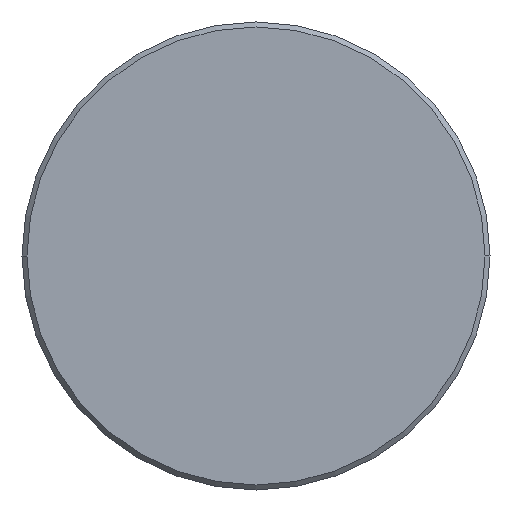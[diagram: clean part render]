
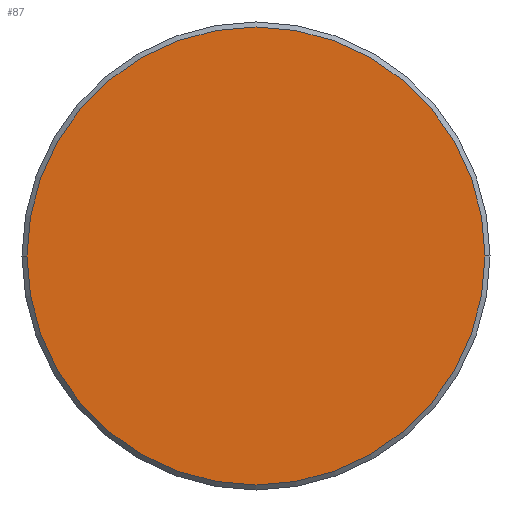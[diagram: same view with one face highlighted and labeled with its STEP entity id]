
A CAD part, left-side view. The second image highlights one B-rep face of the part: STEP entity #87.
In plain terms, the highlighted planar face has unit normal (-1, 0, 0).
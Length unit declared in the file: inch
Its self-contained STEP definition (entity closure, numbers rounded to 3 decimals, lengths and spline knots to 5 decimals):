
#2 = VERTEX_POINT ( 'NONE', #188 ) ;
#8 = DIRECTION ( 'NONE',  ( -1., 0., 0. ) ) ;
#17 = VERTEX_POINT ( 'NONE', #132 ) ;
#63 = CARTESIAN_POINT ( 'NONE',  ( 0., 0., 0. ) ) ;
#84 = DIRECTION ( 'NONE',  ( -1., 0., 0. ) ) ;
#87 = ADVANCED_FACE ( 'NONE', ( #263 ), #139, .T. ) ;
#109 = CARTESIAN_POINT ( 'NONE',  ( 0., 0., 0. ) ) ;
#132 = CARTESIAN_POINT ( 'NONE',  ( 0., -0.1835, 0. ) ) ;
#139 = PLANE ( 'NONE',  #381 ) ;
#151 = EDGE_CURVE ( 'NONE', #17, #2, #375, .T. ) ;
#169 = CIRCLE ( 'NONE', #257, 0.1835 ) ;
#180 = ORIENTED_EDGE ( 'NONE', *, *, #151, .T. ) ;
#188 = CARTESIAN_POINT ( 'NONE',  ( 0., 0.1835, 0. ) ) ;
#224 = CARTESIAN_POINT ( 'NONE',  ( 0., 0., 0. ) ) ;
#229 = DIRECTION ( 'NONE',  ( -1., 0., 0. ) ) ;
#234 = DIRECTION ( 'NONE',  ( 0., -1., 0. ) ) ;
#255 = DIRECTION ( 'NONE',  ( 0., -1., 0. ) ) ;
#257 = AXIS2_PLACEMENT_3D ( 'NONE', #63, #8, #234 ) ;
#260 = ORIENTED_EDGE ( 'NONE', *, *, #277, .T. ) ;
#263 = FACE_OUTER_BOUND ( 'NONE', #356, .T. ) ;
#269 = AXIS2_PLACEMENT_3D ( 'NONE', #224, #84, #288 ) ;
#277 = EDGE_CURVE ( 'NONE', #2, #17, #169, .T. ) ;
#288 = DIRECTION ( 'NONE',  ( 0., -1., 0. ) ) ;
#356 = EDGE_LOOP ( 'NONE', ( #260, #180 ) ) ;
#375 = CIRCLE ( 'NONE', #269, 0.1835 ) ;
#381 = AXIS2_PLACEMENT_3D ( 'NONE', #109, #229, #255 ) ;
